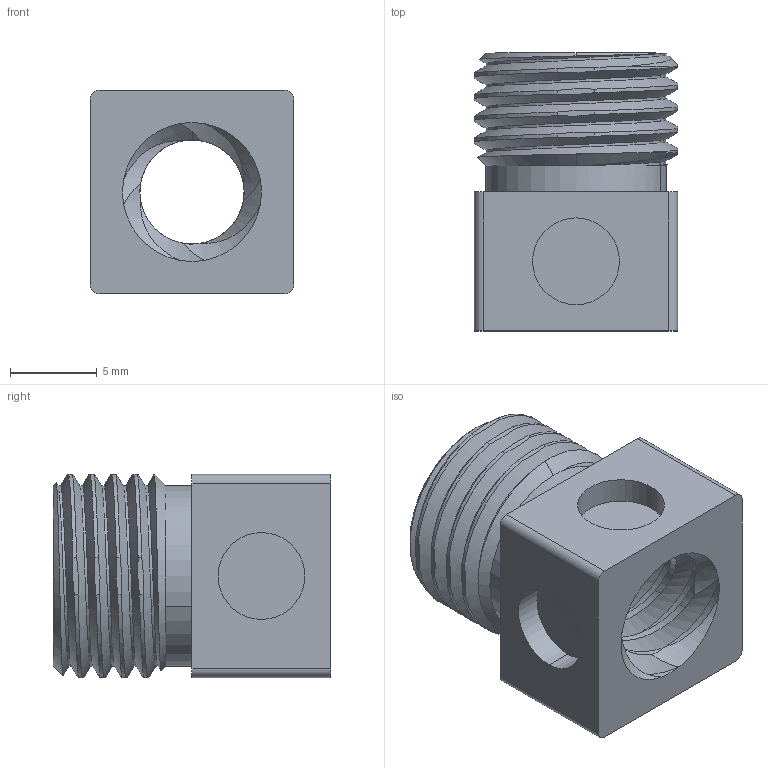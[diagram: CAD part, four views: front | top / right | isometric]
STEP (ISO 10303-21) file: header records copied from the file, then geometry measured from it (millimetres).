
FILE_DESCRIPTION (( 'STEP AP203' ), '1' );
FILE_NAME ('3506-0804-0016.STEP', '2018-06-24T19:06:11', ( '' ), ( '' ), 'SwSTEP 2.0', 'SolidWorks 2016', '' );
FILE_SCHEMA (( 'CONFIG_CONTROL_DESIGN' ));
Products named in the file (1): 3506-0804-0016
Bounding box: 11.7 x 16 x 11.7 mm (x, y, z)
Volume: 1100.1 mm3; surface area: 1637 mm2
Topology: 1 solids, 1 shells, 119 faces, 318 edges, 206 vertices
Faces by surface type: cylinder 60, plane 29, cone 16, bspline 14
Entity records: 53313 total; most frequent: CARTESIAN_POINT 50704, ORIENTED_EDGE 636, DIRECTION 420, EDGE_CURVE 318, VERTEX_POINT 206, AXIS2_PLACEMENT_3D 165, EDGE_LOOP 126, ADVANCED_FACE 119
